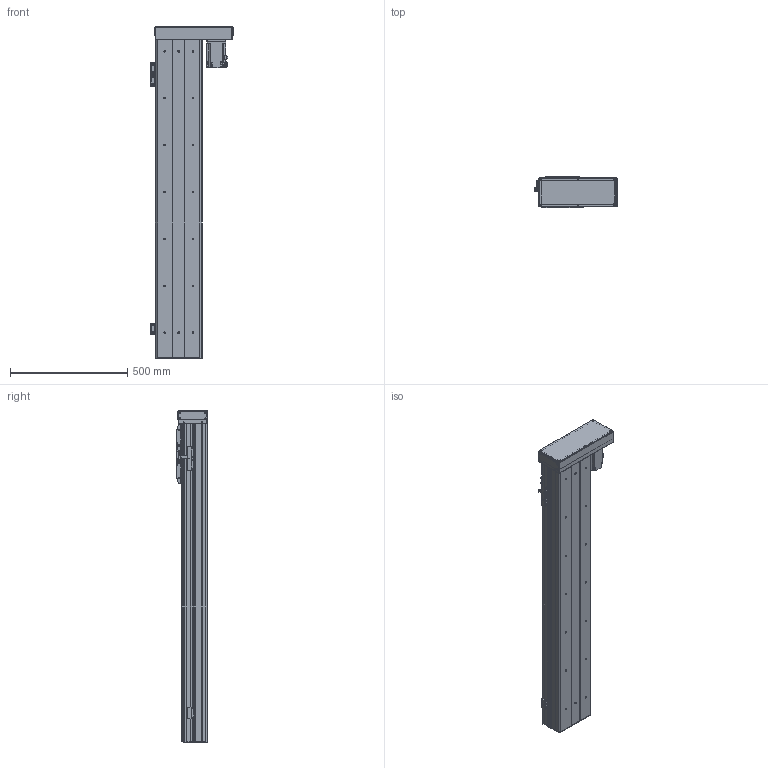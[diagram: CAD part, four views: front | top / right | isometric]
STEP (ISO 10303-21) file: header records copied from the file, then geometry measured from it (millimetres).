
FILE_DESCRIPTION(/* description */ ('MANUFACTURE'),/* implementation_level */ '2;1');
FILE_NAME(/* name */ '\\192.168.0.160\disk1\HAN SHIN Master\B-설계부문\C-표준\B-2024년\BC02-표준도면\+로봇 개선표준도면\표준 승인도 폴더 - 재작업\3D\HC Type\HC200\우병렬\HC200-R70-N-1100-L10 -.stp',/* time_stamp */ '2024-03-25T10:40:16+09:00',/* author */ ('User'),/* organization */ (''),/* preprocessor_version */ 'ST-DEVELOPER v18.1',/* originating_system */ 'Autodesk Inventor 2022',/* authorisation */ 'LIP');
FILE_SCHEMA (('AUTOMOTIVE_DESIGN { 1 0 10303 214 3 1 1 }'));
Products named in the file (28): HC200-R70-N-0500-L10 - 간소화; HC200 S BASE F - 1100ST; HC90 REAR COVER; HC200 TABLE COVER - 개주; HC200-STEEL SHEET F - 1100ST; LMKE2020 NUT; HR180 FRONT BLOCK; HR120 STOPPER; HC200 TABLE; HR180 FRONT BLOCK_1; HC200 SIDE COVER F - 1100ST; HC140 SHEET PLATE; HC65 TABLE SIDE COVER; M-5UT; M-5H-4; hg-kr73_; 750W MOTOR PLATE; HR200 ACRYL COVER -1; HR200 ACRYL COVER -1_1; HR160 400W LR BELT COVER; HR200 ACRYL COVER -1_2; 화살표; HG200 750W LR MOTOR PLATE_MIR; HC75 SENSOR DOG; SENSOR BRK(EE-SX674A); EE_SX674A; hsr_ftht_A-M6F_grease_nipple_joint; NIPPLE CAP(신규)
Assembly tree (49 placements, depth 2):
  HC200-R70-N-0500-L10 - 간소화
    HC200 S BASE F - 1100ST
    HC90 REAR COVER
    HC200 TABLE COVER - 개주
    HC65 TABLE SIDE COVER  x2
    HC200-STEEL SHEET F - 1100ST
    LMKE2020 NUT
    HR120 STOPPER  x2
    HR180 FRONT BLOCK
    HC200 SIDE COVER F - 1100ST  x2
    HC200 TABLE
    HR180 FRONT BLOCK_1
    HC140 SHEET PLATE  x2
    hsr_ftht_A-M6F_grease_nipple_joint  x5
    NIPPLE CAP(신규)  x5
    M-5UT  x2
    M-5H-4  x4
    hg-kr73_
    750W MOTOR PLATE
    HR200 ACRYL COVER -1
    HR200 ACRYL COVER -1_1
    HR200 ACRYL COVER -1_2  x2
    HR160 400W LR BELT COVER
    화살표  x2
    HG200 750W LR MOTOR PLATE_MIR
    HC75 SENSOR DOG
    SENSOR BRK(EE-SX674A)  x3
    EE_SX674A  x3
Bounding box: 351 x 132 x 1416 mm (x, y, z)
Volume: 10449154.9 mm3; surface area: 3117258.4 mm2
Topology: 51 solids, 51 shells, 4363 faces, 11878 edges, 7803 vertices
Faces by surface type: plane 3038, cylinder 883, cone 348, sphere 44, torus 30, bspline 20
Full cylindrical faces by diameter (mm): 1.8 x4, 2 x6, 2.459 x58, 2.5 x6, 3 x16, 3.242 x23, 3.4 x24, 3.5 x12, 4 x6, 4.134 x12, 4.5 x26, 4.917 x29, 5 x26, 5.5 x5, 5.6 x5, 5.9 x4, 6 x11, 6.5 x14, 6.6 x32, 6.647 x24, 6.8 x2, 7 x10, 7.6 x4, 8 x6, 9 x10, 9.5 x1, 10.5 x8, 11 x36, 19 x1, 20 x1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
Entity records: 112349 total; most frequent: CARTESIAN_POINT 20475, ORIENTED_EDGE 19020, DIRECTION 18006, EDGE_CURVE 9510, LINE 7836, VECTOR 7836, VERTEX_POINT 6329, AXIS2_PLACEMENT_3D 5085
